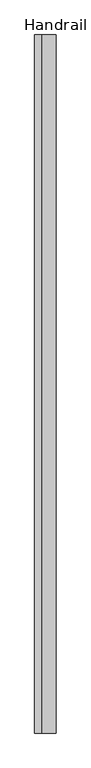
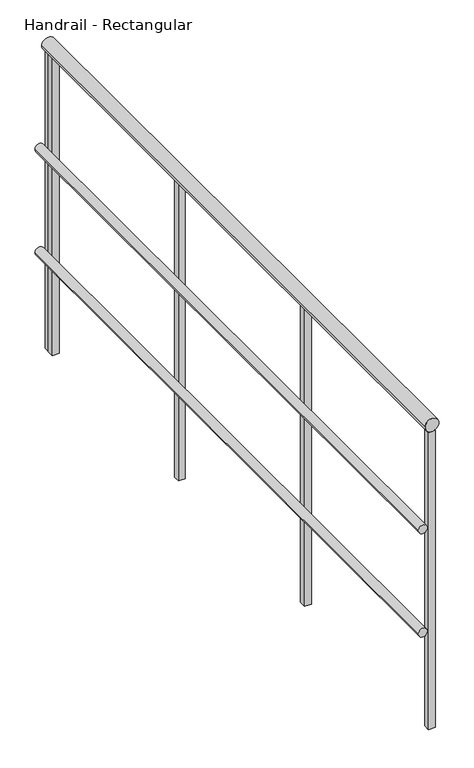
"""IFC4 building model written with IfcOpenShell, lengths in millimetres: railing geometry, Handrail - Rectangular."""

from ifc_helpers import new_model, si_unit, point, frame, frame_2d, origin, place, context, project, spatial, polyline, circle_curve, trimmed, segment, composite_curve, outline, extrude, source, transform, mapped, element, save


def handrail_rectangular_3dd2ecd6(model_context):
    return source(origin(), model_context, "Body", "SweptSolid", [
        extrude(outline(composite_curve([segment(trimmed(circle_curve(frame_2d((9740.9, -32192.8839563)), 12.7), [point((9740.9, -32205.5839563))], [point((9740.9, -32180.1839563))], False, "CARTESIAN"), True, "CONTINUOUS"), segment(trimmed(circle_curve(frame_2d((9740.9, -32192.8839563)), 12.7), [point((9740.9, -32180.1839563))], [point((9740.9, -32205.5839563))], False, "CARTESIAN"), True, "CONTINUOUS")], self_intersect=False)), frame((0.0, -30041.3683133, 0.0), z_axis=(0.0, 1.0, 0.0), x_axis=(0.0, 0.0, 1.0)), (0.0, 0.0, 1.0), 1854.2),
        extrude(outline(composite_curve([segment(trimmed(circle_curve(frame_2d((9436.1, -32192.8839563)), 12.7), [point((9436.1, -32205.5839563))], [point((9436.1, -32180.1839563))], False, "CARTESIAN"), True, "CONTINUOUS"), segment(trimmed(circle_curve(frame_2d((9436.1, -32192.8839563)), 12.7), [point((9436.1, -32180.1839563))], [point((9436.1, -32205.5839563))], False, "CARTESIAN"), True, "CONTINUOUS")], self_intersect=False)), frame((0.0, -30041.3683133, 0.0), z_axis=(0.0, 1.0, 0.0), x_axis=(0.0, 0.0, 1.0)), (0.0, 0.0, 1.0), 1854.2),
        extrude(outline(composite_curve([segment(trimmed(circle_curve(frame_2d((10039.35, -32167.4839563)), 19.05), [point((10039.35, -32186.5339563))], [point((10039.35, -32148.4339563))], False, "CARTESIAN"), True, "CONTINUOUS"), segment(trimmed(circle_curve(frame_2d((10039.35, -32167.4839563)), 19.05), [point((10039.35, -32148.4339563))], [point((10039.35, -32186.5339563))], False, "CARTESIAN"), True, "CONTINUOUS")], self_intersect=False)), frame((0.0, -30041.3683133, 0.0), z_axis=(0.0, 1.0, 0.0), x_axis=(0.0, 0.0, 1.0)), (0.0, 0.0, 1.0), 1854.2),
        extrude(outline(polyline([(-32157.9589563, -28222.0933133), (-32177.0089563, -28222.0933133), (-32177.0089563, -28203.0433133), (-32157.9589563, -28203.0433133), (-32157.9589563, -28222.0933133)])), frame((0.0, 0.0, 9144.0), z_axis=(0.0, 0.0, 1.0), x_axis=(1.0, 0.0, 0.0)), (0.0, 0.0, 1.0), 876.3),
        extrude(outline(polyline([(-32157.9589563, -28831.6933133), (-32177.0089563, -28831.6933133), (-32177.0089563, -28812.6433133), (-32157.9589563, -28812.6433133), (-32157.9589563, -28831.6933133)])), frame((0.0, 0.0, 9144.0), z_axis=(0.0, 0.0, 1.0), x_axis=(1.0, 0.0, 0.0)), (0.0, 0.0, 1.0), 876.3),
        extrude(outline(polyline([(-32157.9589563, -29441.2933133), (-32177.0089563, -29441.2933133), (-32177.0089563, -29422.2433133), (-32157.9589563, -29422.2433133), (-32157.9589563, -29441.2933133)])), frame((0.0, 0.0, 9144.0), z_axis=(0.0, 0.0, 1.0), x_axis=(1.0, 0.0, 0.0)), (0.0, 0.0, 1.0), 876.3),
        extrude(outline(polyline([(-32157.9589563, -28206.2183133), (-32177.0089563, -28206.2183133), (-32177.0089563, -28187.1683133), (-32157.9589563, -28187.1683133), (-32157.9589563, -28206.2183133)])), frame((0.0, 0.0, 9144.0), z_axis=(0.0, 0.0, 1.0), x_axis=(1.0, 0.0, 0.0)), (0.0, 0.0, 1.0), 876.3),
        extrude(outline(polyline([(-32157.9589563, -30041.3683133), (-32177.0089563, -30041.3683133), (-32177.0089563, -30022.3183133), (-32157.9589563, -30022.3183133), (-32157.9589563, -30041.3683133)])), frame((0.0, 0.0, 9144.0), z_axis=(0.0, 0.0, 1.0), x_axis=(1.0, 0.0, 0.0)), (0.0, 0.0, 1.0), 876.3),
    ])


if __name__ == "__main__":
    model = new_model("IFC4")
    model_context = context("Model", 3, world=origin())
    ifc_project = project(units=[si_unit("LENGTHUNIT", "METRE", prefix="MILLI")], contexts=[model_context])
    site = spatial("IfcSite", under=ifc_project)
    building = spatial("IfcBuilding", under=site)
    placement = place(None, origin())
    handrail_rectangular_shape = handrail_rectangular_3dd2ecd6(model_context)
    element("IfcRailing", 1, ObjectType="Handrail - Rectangular", at=placement, inside=building, context=model_context, shape_type="MappedRepresentation", body=[
        mapped(handrail_rectangular_shape, transform((0.0, 0.0, 0.0), x_axis=(1.0, 0.0, 0.0), y_axis=(0.0, 1.0, 0.0), z_axis=(0.0, 0.0, 1.0))),
    ])
    save(model, "model.ifc")
